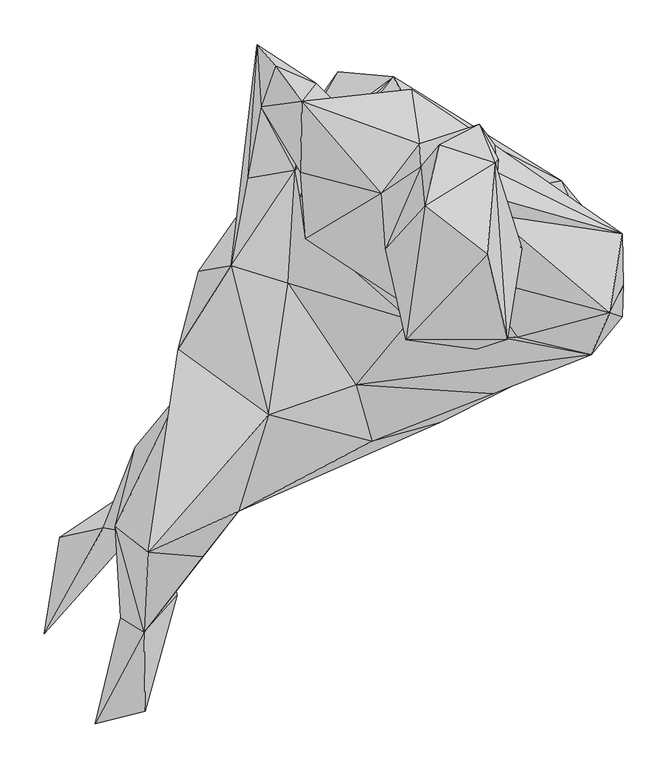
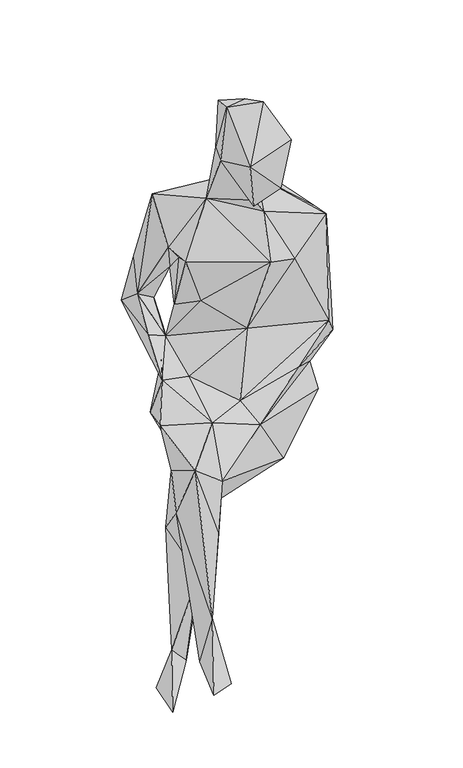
"""IFC4 building model written with IfcOpenShell, lengths in millimetres: geographic element geometry, Enscape AssetDefinition - Elena, Sitting : Enscape AssetDefinition - Elena, Sitting."""

from ifc_helpers import new_model, si_unit, origin, place, context, project, spatial, faceted_brep, source, transform, mapped, element, save


def geographic_element_9a517dda(model_context):
    return source(origin(), model_context, "Body", "Brep", [
        faceted_brep([(-222.1914381, 32.9712071, 572.2343326), (-154.8437029, 45.0743325, 435.3912175), (-245.5918789, -54.3861613, 593.4494734), (48.4060459, -137.0086372, 444.8394775), (-142.3269212, -40.9572273, 427.9337823), (-164.2532945, -73.4094977, 467.002213), (219.8449373, 93.2644233, 509.1412663), (-134.2807412, 142.4343735, 469.8536992), (136.7937773, -17.1657, 478.2662392), (-244.2606986, -105.2439958, 493.9331412), (-167.9503173, -91.5561244, 426.3361692), (-293.6551869, -164.7518277, 379.5438409), (-279.3087065, -282.8757465, 611.8980646), (-316.1026537, -253.3576488, 483.3986461), (-283.9103937, -372.6494014, 234.504059), (-217.9389596, -287.5880301, 411.6716385), (-177.4737984, -236.5325391, 517.7676678), (-143.4625685, -128.0674785, 610.93539), (-310.341686, -356.2755585, 106.928654), (-261.6444826, -266.9208944, 289.2866731), (-282.6017439, -461.2520337, 95.862329), (-246.5416491, -331.0851753, 107.4755192), (-338.8476968, -475.2471745, 90.6171054), (-285.1577401, -249.9303073, 37.8479138), (-171.2347418, -168.8119769, 404.4291079), (-329.8431635, -255.1862895, 86.6450444), (-395.8285451, -374.5608032, -1.1936591), (-231.0380489, -187.5205338, 204.9408555), (-288.0403697, -205.4995298, -0.2245497), (-378.8315356, -265.7110989, -0.4125699), (-27.4552349, -158.1517756, 582.9375386), (185.3480786, -68.084769, 560.0012541), (-186.1130595, 39.1135588, 650.1585245), (-45.6093848, -94.7170109, 622.0221519), (-121.6028184, 19.5261575, 650.7290006), (-65.7533184, 257.5596273, 519.6478367), (-3.113613, 251.445204, 671.9828248), (-116.7647839, 168.0341065, 645.0250149), (185.7660264, 134.7470284, 626.0672212), (67.2198758, 181.7123145, 514.5261884), (177.6231527, -40.9056544, 626.8354654), (108.713232, -104.6487689, 672.4147201), (254.4116378, -17.9639794, 677.9307127), (219.1659212, -60.923893, 745.3944683), (15.1307844, -21.6040481, 768.9603567), (136.1448318, -41.4460786, 942.322433), (239.9759889, -13.7512544, 1021.9386816), (-113.811262, 146.6223896, 689.9049282), (68.7884986, -42.3904769, 956.8923712), (-70.4860538, 54.2335957, 833.5136175), (-156.56811, 287.7835631, 723.1705189), (-167.5495654, 137.8090829, 717.5481915), (-90.3667659, 244.4970608, 735.0361347), (-136.1222714, 263.9651895, 857.0536971), (-152.4488628, 217.8207785, 783.2090259), (-104.0761173, 176.7765135, 699.7109056), (-79.2026669, 186.636284, 856.5981984), (-105.8864817, 224.2360115, 1057.2521687), (-59.8634556, 214.0592933, 857.1170568), (-107.961148, 144.3833411, 949.1180182), (-83.114557, 138.0991638, 914.7801399), (-108.0965251, 115.9998104, 798.6578941), (17.0840435, 237.502709, 904.3123126), (11.9666746, 224.053368, 757.630825), (25.9693395, 176.2027889, 1081.6721916), (111.0081524, 174.589023, 936.3939166), (164.9924815, 130.8469623, 763.2939816), (254.2741001, 75.3208622, 988.4625673), (113.7693599, 144.0545619, 1033.651948), (93.5577378, 198.3536929, 1124.1561174), (114.8340926, 158.7051004, 1133.2982779), (86.6418183, 122.4333271, 1156.1378241), (110.7331067, 155.055359, 1301.8943071), (27.7882982, 150.2280682, 1192.3999786), (48.7229936, 175.3314584, 1307.5478077), (141.3352638, 58.68591, 1210.9806538), (109.9606156, 96.6724232, 1112.16259), (56.0697466, 12.4694947, 1110.1856232), (89.9112225, -54.5752533, 1174.598217), (125.0323057, -43.6174423, 1297.1776724), (89.2429426, 26.207855, 1057.2983027), (-16.7982541, 120.705694, 1076.292634), (255.2109659, 17.3161142, 793.4706807), (-12.0375846, 58.4173128, 1222.2456932), (29.4106435, -29.1248541, 1127.1214485), (10.6505342, -44.3705954, 1256.6298246), (31.9097005, 106.7191437, 1334.4540596), (102.3645923, 51.9870222, 1358.8063717), (-102.0326093, 69.7629899, 950.2643943)], [[[0, 1, 2]], [[3, 4, 1]], [[1, 4, 5]], [[6, 1, 7]], [[6, 8, 1]], [[3, 1, 8]], [[1, 0, 7]], [[2, 1, 9]], [[1, 5, 9]], [[5, 10, 11]], [[5, 4, 10]], [[9, 5, 11]], [[2, 9, 12]], [[12, 9, 13]], [[13, 9, 11]], [[12, 13, 14]], [[12, 15, 16]], [[12, 17, 2]], [[15, 12, 14]], [[16, 17, 12]], [[13, 18, 14]], [[13, 19, 18]], [[19, 13, 11]], [[20, 18, 21]], [[19, 21, 18]], [[14, 18, 22]], [[22, 18, 20]], [[14, 20, 21]], [[14, 21, 19]], [[22, 20, 14]], [[15, 14, 16]], [[14, 19, 16]], [[19, 23, 24]], [[16, 19, 24]], [[23, 19, 25]], [[11, 25, 19]], [[23, 25, 26]], [[24, 23, 27]], [[23, 26, 28]], [[27, 23, 28]], [[25, 28, 29]], [[11, 28, 25]], [[25, 29, 26]], [[11, 27, 28]], [[11, 24, 27]], [[24, 11, 10]], [[26, 29, 28]], [[16, 24, 3]], [[4, 24, 10]], [[3, 24, 4]], [[30, 16, 3]], [[6, 3, 8]], [[31, 3, 6]], [[31, 30, 3]], [[30, 17, 16]], [[32, 2, 17]], [[33, 34, 17]], [[17, 34, 32]], [[17, 30, 33]], [[2, 32, 0]], [[0, 35, 7]], [[32, 35, 0]], [[36, 35, 37]], [[38, 35, 36]], [[38, 39, 35]], [[32, 37, 35]], [[39, 7, 35]], [[6, 7, 39]], [[6, 39, 38]], [[38, 40, 6]], [[40, 31, 6]], [[41, 30, 40]], [[31, 40, 30]], [[42, 41, 40]], [[42, 40, 38]], [[30, 41, 33]], [[41, 43, 33]], [[42, 43, 41]], [[44, 34, 33]], [[43, 44, 33]], [[45, 44, 43]], [[45, 43, 46]], [[42, 46, 43]], [[44, 47, 34]], [[48, 44, 45]], [[49, 47, 44]], [[44, 48, 49]], [[47, 32, 34]], [[32, 50, 37]], [[51, 50, 32]], [[32, 47, 51]], [[52, 37, 50]], [[53, 52, 50]], [[51, 54, 50]], [[54, 53, 50]], [[52, 55, 37]], [[47, 37, 55]], [[47, 36, 37]], [[47, 55, 52]], [[52, 54, 47]], [[52, 56, 54]], [[53, 57, 52]], [[58, 56, 52]], [[57, 58, 52]], [[57, 53, 54]], [[47, 54, 51]], [[57, 54, 59]], [[56, 59, 54]], [[59, 56, 60]], [[60, 56, 61]], [[56, 58, 61]], [[62, 58, 57]], [[61, 58, 63]], [[58, 62, 63]], [[64, 62, 57]], [[62, 64, 65]], [[62, 66, 63]], [[62, 65, 66]], [[63, 36, 61]], [[63, 38, 36]], [[63, 66, 38]], [[67, 42, 66]], [[65, 67, 66]], [[66, 42, 38]], [[68, 67, 65]], [[64, 69, 65]], [[69, 68, 65]], [[70, 68, 69]], [[71, 67, 68]], [[70, 71, 68]], [[71, 70, 69]], [[72, 71, 69]], [[73, 69, 64]], [[74, 69, 73]], [[69, 74, 72]], [[72, 75, 71]], [[76, 67, 71]], [[71, 75, 76]], [[75, 77, 76]], [[78, 77, 75]], [[72, 79, 75]], [[79, 78, 75]], [[77, 80, 76]], [[46, 67, 76]], [[76, 80, 46]], [[48, 80, 81]], [[48, 45, 80]], [[77, 81, 80]], [[80, 45, 46]], [[42, 82, 46]], [[67, 46, 82]], [[82, 42, 67]], [[83, 81, 77]], [[84, 83, 77]], [[78, 84, 77]], [[85, 83, 84]], [[81, 83, 73]], [[83, 86, 73]], [[86, 83, 85]], [[78, 85, 84]], [[79, 85, 78]], [[85, 87, 86]], [[87, 85, 79]], [[86, 74, 73]], [[86, 72, 74]], [[86, 87, 72]], [[81, 73, 64]], [[57, 81, 64]], [[48, 81, 88]], [[81, 57, 59]], [[88, 81, 59]], [[59, 60, 88]], [[88, 60, 61]], [[49, 88, 61]], [[48, 88, 49]], [[61, 36, 47]], [[49, 61, 47]], [[87, 79, 72]]]),
    ])


if __name__ == "__main__":
    model = new_model("IFC4")
    model_context = context("Model", 3, world=origin())
    ifc_project = project(units=[si_unit("LENGTHUNIT", "METRE", prefix="MILLI")], contexts=[model_context])
    site = spatial("IfcSite", under=ifc_project)
    building = spatial("IfcBuilding", under=site)
    placement = place(None, origin())
    geographic_element_shape = geographic_element_9a517dda(model_context)
    element("IfcGeographicElement", 1, ObjectType="Enscape AssetDefinition - Elena, Sitting : Enscape AssetDefinition - Elena, Sitting", at=placement, inside=building, context=model_context, shape_type="MappedRepresentation", body=[
        mapped(geographic_element_shape, transform((0.0, 0.0, 0.0), x_axis=(1.0, 0.0, 0.0), y_axis=(0.0, 1.0, 0.0), z_axis=(0.0, 0.0, 1.0))),
    ])
    save(model, "model.ifc")
